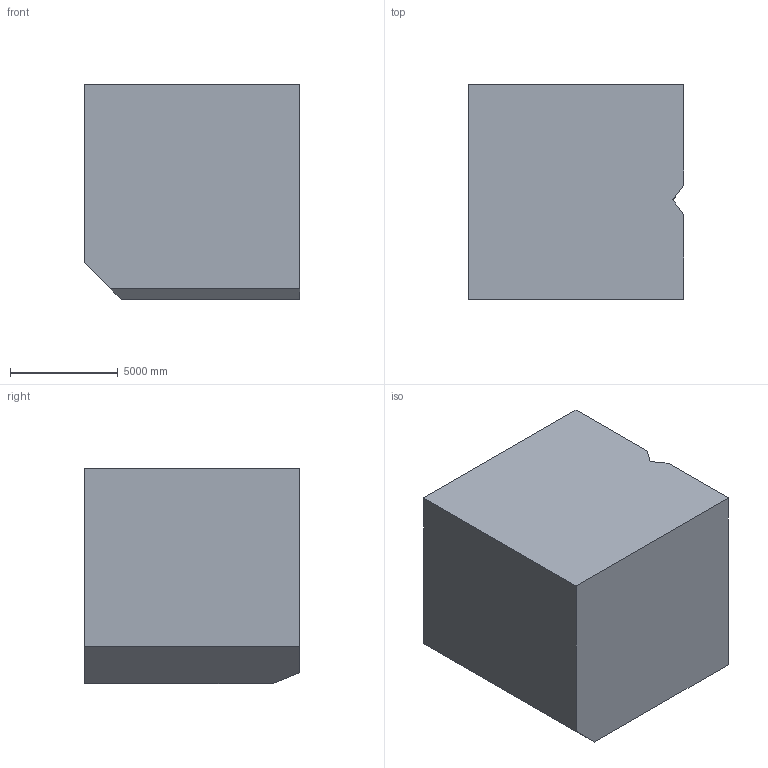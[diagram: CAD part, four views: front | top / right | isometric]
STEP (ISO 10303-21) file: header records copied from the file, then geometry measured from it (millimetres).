
FILE_DESCRIPTION (( 'STEP AP203' ), '1' );
FILE_NAME ('23.STEP', '2022-08-30T14:03:40', ( 'user' ), ( '' ), 'SwSTEP 2.0', 'SolidWorks 2021', '' );
FILE_SCHEMA (( 'CONFIG_CONTROL_DESIGN' ));
Length unit declared in the file: centimetre
Products named in the file (1): 23
Bounding box: 10000 x 10000 x 10000 mm (x, y, z)
Volume: 979088309069.7 mm3; surface area: 585618602.1 mm2
Topology: 1 solids, 1 shells, 11 faces, 27 edges, 18 vertices
Faces by surface type: plane 11
Entity records: 398 total; most frequent: CARTESIAN_POINT 57, ORIENTED_EDGE 54, DIRECTION 51, EDGE_CURVE 27, VECTOR 27, LINE 27, VERTEX_POINT 18, AXIS2_PLACEMENT_3D 12
